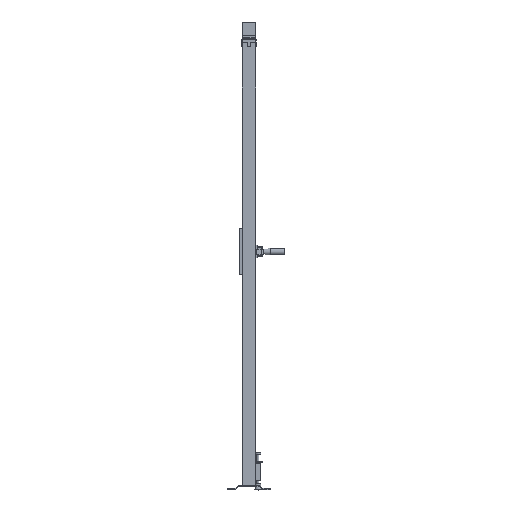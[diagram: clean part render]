
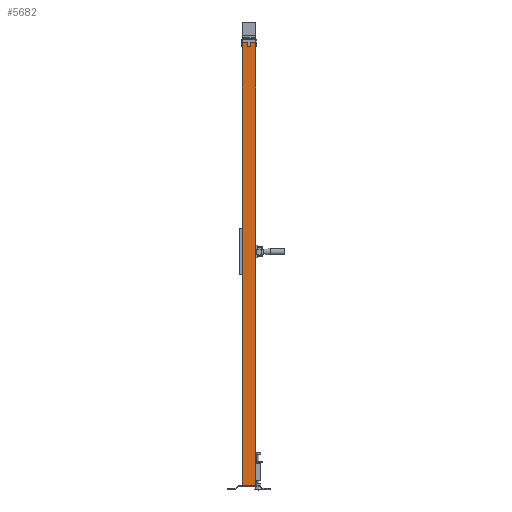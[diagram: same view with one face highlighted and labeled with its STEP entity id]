
A CAD part, left-side view. The second image highlights one B-rep face of the part: STEP entity #5682.
In plain terms, the highlighted planar face has unit normal (-1, 0, 0).
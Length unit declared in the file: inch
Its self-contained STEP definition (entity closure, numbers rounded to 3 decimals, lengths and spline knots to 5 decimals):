
#577=FACE_OUTER_BOUND('',#993,.T.);
#993=EDGE_LOOP('',(#3651,#3652,#3653,#3654));
#1501=VERTEX_POINT('',#11867);
#1502=VERTEX_POINT('',#11869);
#1505=VERTEX_POINT('',#11876);
#1506=VERTEX_POINT('',#11878);
#2332=EDGE_CURVE('',#1501,#1502,#6563,.T.);
#2336=EDGE_CURVE('',#1505,#1506,#6567,.T.);
#2338=EDGE_CURVE('',#1502,#1505,#6569,.T.);
#2340=EDGE_CURVE('',#1501,#1506,#6571,.T.);
#3651=ORIENTED_EDGE('',*,*,#2340,.T.);
#3652=ORIENTED_EDGE('',*,*,#2336,.F.);
#3653=ORIENTED_EDGE('',*,*,#2338,.F.);
#3654=ORIENTED_EDGE('',*,*,#2332,.F.);
#5320=PLANE('',#8418);
#5682=ADVANCED_FACE('',(#577),#5320,.F.);
#6563=LINE('',#11870,#7558);
#6567=LINE('',#11879,#7562);
#6569=LINE('',#11882,#7564);
#6571=LINE('',#11885,#7566);
#7558=VECTOR('',#9430,0.03937);
#7562=VECTOR('',#9436,0.03937);
#7564=VECTOR('',#9440,0.03937);
#7566=VECTOR('',#9444,0.03937);
#8418=AXIS2_PLACEMENT_3D('',#11884,#9442,#9443);
#9430=DIRECTION('',(0.,-1.,0.));
#9436=DIRECTION('',(0.,1.,0.));
#9440=DIRECTION('',(0.,0.,-1.));
#9442=DIRECTION('center_axis',(1.,0.,0.));
#9443=DIRECTION('ref_axis',(0.,0.,-1.));
#9444=DIRECTION('',(0.,0.,-1.));
#11867=CARTESIAN_POINT('',(0.7874,4.96063,79.52756));
#11869=CARTESIAN_POINT('',(0.7874,2.59843,79.52756));
#11870=CARTESIAN_POINT('',(0.7874,3.77953,79.52756));
#11876=CARTESIAN_POINT('',(0.7874,2.59843,0.7874));
#11878=CARTESIAN_POINT('',(0.7874,4.96063,0.7874));
#11879=CARTESIAN_POINT('',(0.7874,3.77953,0.7874));
#11882=CARTESIAN_POINT('',(0.7874,2.59843,40.15748));
#11884=CARTESIAN_POINT('Origin',(0.7874,3.77953,40.15748));
#11885=CARTESIAN_POINT('',(0.7874,4.96063,40.15748));
